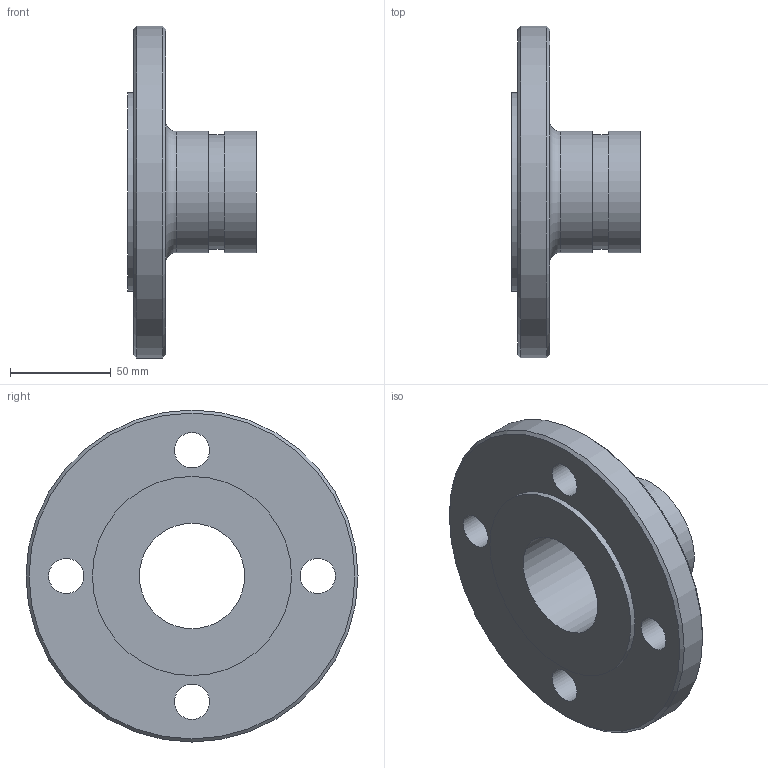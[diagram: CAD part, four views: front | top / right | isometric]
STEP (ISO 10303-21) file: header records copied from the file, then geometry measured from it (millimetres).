
FILE_DESCRIPTION(/* description */ ('VIC FLG ADPTR NIP PN10 RF No 45RE (OGSxFLG)'),/* implementation_level */ '2;1');
FILE_NAME(/* name */ 'C:\Users\vjadhav\OneDrive - Victaulic Company\Desktop\New folder\Victaulic_IPS_Flgd Adptr Nip_PN10 RF_No 45RE (OGSxFLG)\Victaulic_IPS_Flgd Adptr Nip_PN10 RF_No 45RE (OGSxFLG)_2 (50).stp',/* time_stamp */ '2024-04-01T13:02:05+02:00',/* author */ ('jheald'),/* organization */ ('Victaulic'),/* preprocessor_version */ 'ST-DEVELOPER v18.1',/* originating_system */ 'Autodesk Inventor 2020',/* authorisation */ '');
FILE_SCHEMA (('AUTOMOTIVE_DESIGN { 1 0 10303 214 3 1 1 }'));
Length unit declared in the file: inch
Products named in the file (1): 045RE-02.0
Bounding box: 64.01 x 165 x 165 mm (x, y, z)
Volume: 338361.1 mm3; surface area: 67509.8 mm2
Topology: 1 solids, 1 shells, 19 faces, 50 edges, 37 vertices
Faces by surface type: cylinder 10, plane 6, cone 2, torus 1
Full cylindrical faces by diameter (mm): 17.526 x4, 52.324 x1, 57.15 x1, 60.325 x2, 99.009 x1, 164.998 x1
Entity records: 712 total; most frequent: DIRECTION 128, CARTESIAN_POINT 107, ORIENTED_EDGE 100, AXIS2_PLACEMENT_3D 58, EDGE_CURVE 50, CIRCLE 38, VERTEX_POINT 37, EDGE_LOOP 33
